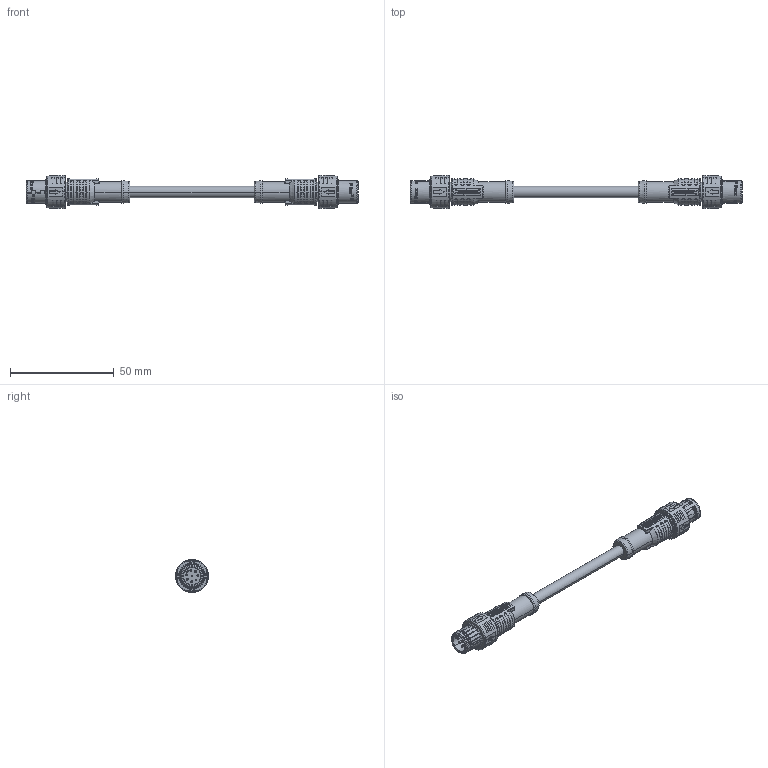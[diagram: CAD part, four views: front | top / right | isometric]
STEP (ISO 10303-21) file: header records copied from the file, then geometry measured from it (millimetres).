
FILE_DESCRIPTION((''),'2;1');
FILE_NAME('M12A08ML-12AML-PBXX_SW0001','2022-05-23T',('L100003'),(''),'PRO/ENGINEER BY PARAMETRIC TECHNOLOGY CORPORATION, 2017170','PRO/ENGINEER BY PARAMETRIC TECHNOLOGY CORPORATION, 2017170','');
FILE_SCHEMA(('CONFIG_CONTROL_DESIGN'));
Products named in the file (1): M12A08ML-12AML-PBXX_SW0001
Bounding box: 160 x 16 x 16 mm (x, y, z)
Volume: 10966.6 mm3; surface area: 11680.4 mm2
Topology: 1 solids, 1 shells, 3892 faces, 11104 edges, 7158 vertices
Faces by surface type: plane 1730, cylinder 1194, cone 324, torus 276, bspline 248, extrusion 80, sphere 40
Entity records: 157333 total; most frequent: CARTESIAN_POINT 58974, ORIENTED_EDGE 22128, DIRECTION 18902, EDGE_CURVE 11064, VERTEX_POINT 7158, AXIS2_PLACEMENT_3D 6858, VECTOR 5186, LINE 5106
